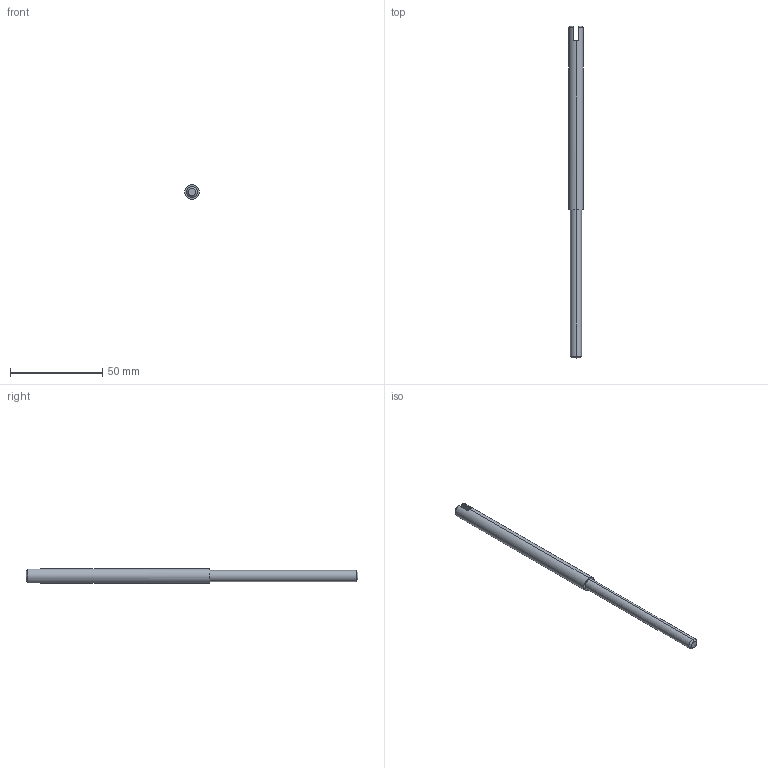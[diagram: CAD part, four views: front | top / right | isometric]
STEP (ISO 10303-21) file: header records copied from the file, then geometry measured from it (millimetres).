
FILE_DESCRIPTION (( 'STEP AP203' ), '1' );
FILE_NAME ('084.608.001.STEP', '2018-03-09T14:21:08', ( '' ), ( '' ), 'SwSTEP 2.0', 'SolidWorks 2016', '' );
FILE_SCHEMA (( 'CONFIG_CONTROL_DESIGN' ));
Length unit declared in the file: millimetre
Products named in the file (1): 084.608.001
Bounding box: 8 x 180 x 8 mm (x, y, z)
Volume: 7073.3 mm3; surface area: 4161.1 mm2
Topology: 1 solids, 1 shells, 15 faces, 34 edges, 22 vertices
Faces by surface type: plane 7, cone 4, cylinder 4
Entity records: 509 total; most frequent: CARTESIAN_POINT 84, DIRECTION 78, ORIENTED_EDGE 68, EDGE_CURVE 34, AXIS2_PLACEMENT_3D 32, VERTEX_POINT 22, CIRCLE 16, EDGE_LOOP 16
